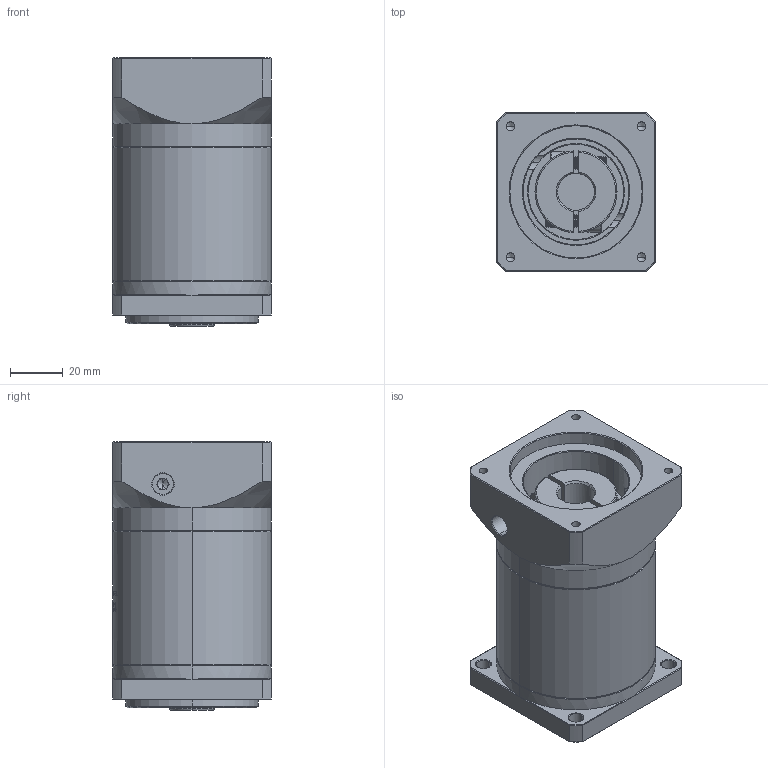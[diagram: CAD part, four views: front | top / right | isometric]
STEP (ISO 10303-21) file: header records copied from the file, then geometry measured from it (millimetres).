
FILE_DESCRIPTION (( 'STEP AP214' ), '1' );
FILE_NAME ('ZF60-K10-L2-14-50-70-M4.STEP', '2022-04-17T11:43:43', ( '' ), ( 'Microsoft' ), 'SwSTEP 2.0', 'SolidWorks 2016', '' );
FILE_SCHEMA (( 'AUTOMOTIVE_DESIGN' ));
Length unit declared in the file: millimetre
Products named in the file (1): ZF60-K10-L2-14-50-70-M4
Bounding box: 60 x 60 x 101.5 mm (x, y, z)
Volume: 263605.3 mm3; surface area: 45665 mm2
Topology: 6 solids, 6 shells, 1451 faces, 3904 edges, 2528 vertices
Faces by surface type: plane 729, bspline 280, cone 228, cylinder 196, torus 18
Entity records: 73297 total; most frequent: CARTESIAN_POINT 23667, ORIENTED_EDGE 7784, DIRECTION 5933, EDGE_CURVE 3892, VERTEX_POINT 2528, LINE 2061, VECTOR 2061, AXIS2_PLACEMENT_3D 1936
